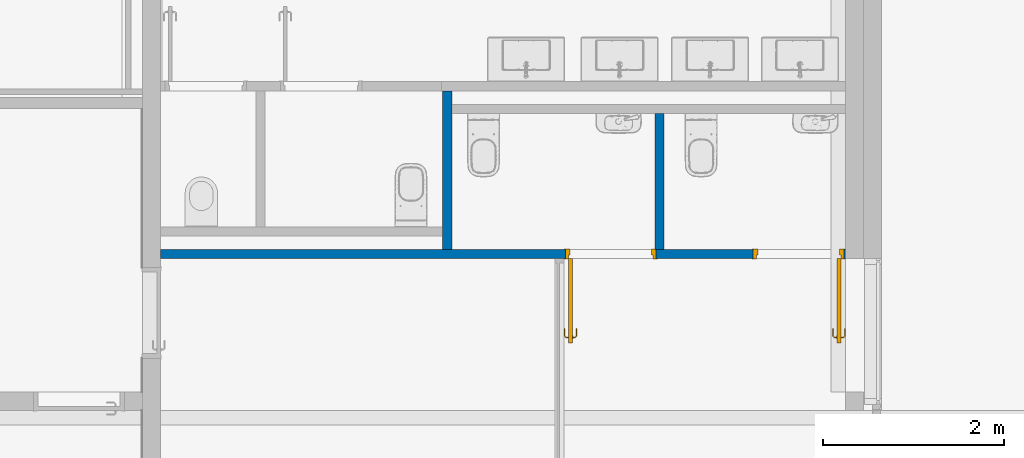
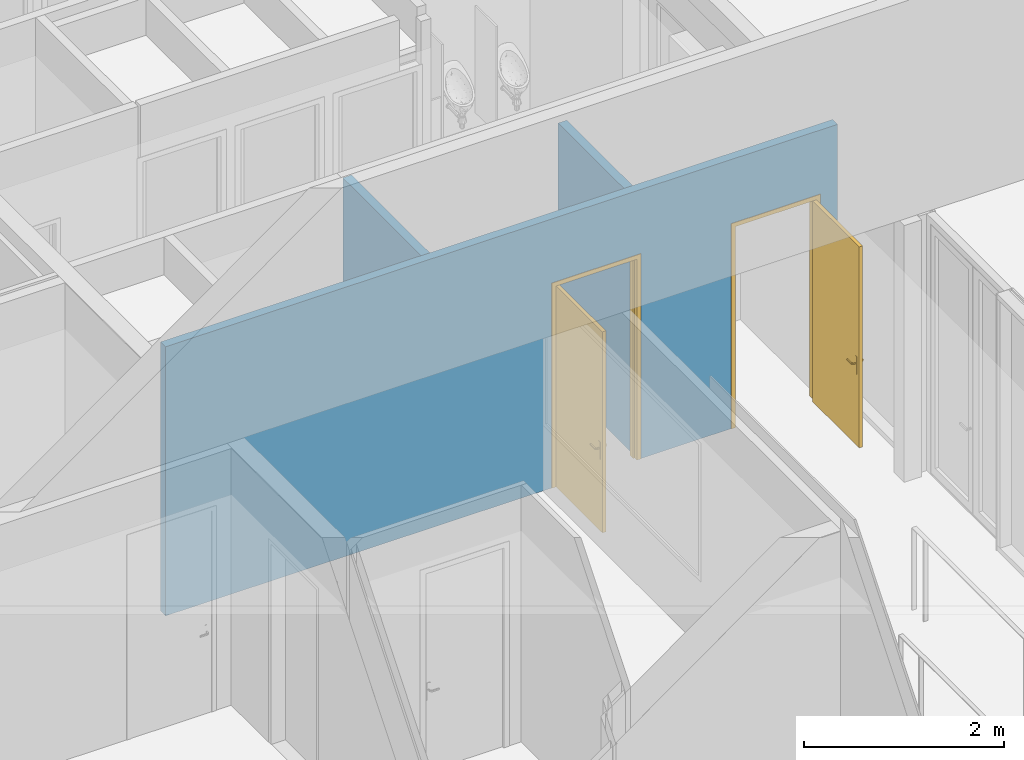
# One storey, part 94 of 240: 3 walls, 2 doors, 3 openings.
"""IFC2X3 building model written with IfcOpenShell, lengths in centimetres."""

import ifcopenshell
import ifcopenshell.guid

model = None  # the IFC model being written
_history = None  # IfcOwnerHistory: only IFC2X3 demands one
_inside = {}  # id of a spatial element -> (the spatial element, [elements in it])
_under = {}  # id of a project, library or spatial element -> (it, [spatial elements below it])
_declared = {}  # id of a project -> (the project, [libraries it declares])
_typed = {}  # id of a type object -> (the type object, [elements of that type])
_made_of = {}  # id of a material, layer set ... -> (it, [elements and type objects made of it])


def new_model(schema):
    """Start an empty IFC model of exactly this schema.

    Asked for "IFC4X3", IfcOpenShell would pick the latest addendum, in which some entities
    have other attributes; the version numbers below select the first issue.
    IFC2X3 requires an IfcOwnerHistory on every rooted entity: one is made here for all.
    """
    global model, _history
    if schema == "IFC4X3":
        model = ifcopenshell.file(schema_version=(4, 3, 0, 0))
    else:
        model = ifcopenshell.file(schema=schema)
    _inside.clear()
    _under.clear()
    _declared.clear()
    _typed.clear()
    _made_of.clear()
    _history = None
    if model.schema == "IFC2X3":
        org = make("IfcOrganization", Name="unknown")
        user = make(
            "IfcPersonAndOrganization",
            ThePerson=make("IfcPerson", FamilyName="unknown"),
            TheOrganization=org,
        )
        app = make(
            "IfcApplication",
            ApplicationDeveloper=org,
            Version="unknown",
            ApplicationFullName="unknown",
            ApplicationIdentifier="unknown",
        )
        _history = make(
            "IfcOwnerHistory",
            OwningUser=user,
            OwningApplication=app,
            ChangeAction="ADDED",
            CreationDate=0,
        )
    return model


def make(cls, **values):
    """One entity of the class cls with the attributes given. An attribute that is None is left unset."""
    return model.create_entity(
        cls, **{name: value for name, value in values.items() if value is not None}
    )


def entity(cls, *values):
    """Any entity or typed value of the class cls, its attributes in the order of the schema. None: left unset."""
    e = model.create_entity(cls)
    for i, value in enumerate(values):
        if value is not None:
            e[i] = value
    return e


def rooted(cls, **values):
    """An entity with a GlobalId (a new one), such as an element, a storey or a relation."""
    return make(cls, GlobalId=ifcopenshell.guid.new(), OwnerHistory=_history, **values)


def si_unit(unit_type, name, prefix=None):
    """IfcSIUnit, for example si_unit("LENGTHUNIT", "METRE", prefix="MILLI")."""
    return make("IfcSIUnit", UnitType=unit_type, Prefix=prefix, Name=name)


def converted_unit(unit_type, name, factor, base, dimensions=None, offset=None):
    """IfcConversionBasedUnit, such as the inch: factor (a typed value) times the base unit."""
    return make(
        "IfcConversionBasedUnit"
        if offset is None
        else "IfcConversionBasedUnitWithOffset",
        ConversionOffset=offset,
        Dimensions=None
        if dimensions is None
        else entity("IfcDimensionalExponents", *dimensions),
        UnitType=unit_type,
        Name=name,
        ConversionFactor=make(
            "IfcMeasureWithUnit", ValueComponent=factor, UnitComponent=base
        ),
    )


def derived_unit(unit_type, elements):
    """IfcDerivedUnit: a product of units, each with its exponent."""
    return make(
        "IfcDerivedUnit",
        Elements=[
            make("IfcDerivedUnitElement", Unit=unit, Exponent=power)
            for unit, power in elements
        ],
        UnitType=unit_type,
    )


def assignment(units):
    """IfcUnitAssignment: the units of a project."""
    return None if units is None else make("IfcUnitAssignment", Units=units)


def point(xyz):
    """IfcCartesianPoint."""
    return None if xyz is None else make("IfcCartesianPoint", Coordinates=xyz)


def direction(xyz):
    """IfcDirection."""
    return None if xyz is None else make("IfcDirection", DirectionRatios=xyz)


def frame(location, z_axis=None, x_axis=None):
    """IfcAxis2Placement3D, a coordinate frame: its origin and axes. An axis left out is left unset."""
    return make(
        "IfcAxis2Placement3D",
        Location=point(location),
        Axis=direction(z_axis),
        RefDirection=direction(x_axis),
    )


def frame_2d(location, x_axis=None):
    """IfcAxis2Placement2D, a coordinate frame in the plane: its origin and x axis."""
    return make(
        "IfcAxis2Placement2D", Location=point(location), RefDirection=direction(x_axis)
    )


def origin():
    """The frame at (0, 0, 0) with its axes left unset."""
    return frame((0.0, 0.0, 0.0))


def place(relative_to, where):
    """IfcLocalPlacement: puts the frame where relative to a parent placement (None: the world)."""
    return make(
        "IfcLocalPlacement", PlacementRelTo=relative_to, RelativePlacement=where
    )


def context(
    kind, dimensions, precision=None, world=None, true_north=None, identifier=None
):
    """IfcGeometricRepresentationContext, for example the 3D "Model" context."""
    return make(
        "IfcGeometricRepresentationContext",
        ContextIdentifier=identifier,
        ContextType=kind,
        CoordinateSpaceDimension=dimensions,
        Precision=precision,
        WorldCoordinateSystem=world,
        TrueNorth=true_north,
    )


def subcontext(parent, identifier, kind, view, scale=None):
    """IfcGeometricRepresentationSubContext, for example "Body" below "Model"."""
    return make(
        "IfcGeometricRepresentationSubContext",
        ContextIdentifier=identifier,
        ContextType=kind,
        ParentContext=parent,
        TargetScale=scale,
        TargetView=view,
    )


def project(units=None, contexts=None):
    """IfcProject with its units and contexts."""
    return rooted(
        "IfcProject",
        Name="project",
        RepresentationContexts=contexts,
        UnitsInContext=assignment(units),
    )


def spatial(cls, under=None, at=None, **own):
    """A site, building, storey or space (cls), placed at a placement, below another one or the project."""
    s = rooted(cls, ObjectPlacement=at, **own)
    if under is not None:
        _under.setdefault(under.id(), (under, []))[1].append(s)
    return s


def polyline(points):
    """IfcPolyline through the points."""
    return make("IfcPolyline", Points=[point(p) for p in points])


def profile(cls, at=None, kind="AREA", **sizes):
    """A parametric profile (cls). Its sizes go by their IFC names, for example OverallWidth=200.0."""
    return make(cls, ProfileType=kind, Position=at, **sizes)


def rectangle(**sizes):
    """IfcRectangleProfileDef."""
    return profile("IfcRectangleProfileDef", **sizes)


def extrude(swept, where, along, depth):
    """IfcExtrudedAreaSolid: the profile swept, set in the frame where, extruded along a direction by depth."""
    return make(
        "IfcExtrudedAreaSolid",
        SweptArea=swept,
        Position=where,
        ExtrudedDirection=direction(along),
        Depth=depth,
    )


def clip(a, b, op="DIFFERENCE"):
    """IfcBooleanClippingResult: the solid a cut by the half space b."""
    return make(
        "IfcBooleanClippingResult", Operator=op, FirstOperand=a, SecondOperand=b
    )


def bounded_halfspace(plane, agree, where, boundary):
    """IfcPolygonalBoundedHalfSpace: a half space limited to a polygon's prism."""
    return make(
        "IfcPolygonalBoundedHalfSpace",
        BaseSurface=make("IfcPlane", Position=plane),
        AgreementFlag=agree,
        Position=where,
        PolygonalBoundary=boundary,
    )


def faces_of(points, faces, orient=None, outer=None):
    """IfcFace entities. A face is a list of loops; a loop is a list of indices into points, from 0.

    orient and outer hold one flag for each loop. By default every Orientation is true, the
    first loop of a face is its IfcFaceOuterBound and the others are IfcFaceBound.
    """
    made = []
    for i, loops in enumerate(faces):
        bounds = []
        for j, loop in enumerate(loops):
            is_outer = j == 0 if outer is None else outer[i][j]
            bounds.append(
                make(
                    "IfcFaceOuterBound" if is_outer else "IfcFaceBound",
                    Bound=make("IfcPolyLoop", Polygon=[points[k] for k in loop]),
                    Orientation=True if orient is None else orient[i][j],
                )
            )
        made.append(make("IfcFace", Bounds=bounds))
    return made


def faceted_brep(points, faces, orient=None, outer=None, voids=None):
    """IfcFacetedBrep: a solid bounded by flat faces; with voids (closed shells), ...WithVoids."""
    shared = [point(p) for p in points]
    hull = make("IfcClosedShell", CfsFaces=faces_of(shared, faces, orient, outer))
    if voids is None:
        return make("IfcFacetedBrep", Outer=hull)
    return make(
        "IfcFacetedBrepWithVoids",
        Outer=hull,
        Voids=[
            make(cls, CfsFaces=faces_of(shared, fs, o, b)) for cls, fs, o, b in voids
        ],
    )


def shape(context_of_items, identifier, shape_type, items):
    """IfcShapeRepresentation: the items that make up one representation, for example the "Body"."""
    return make(
        "IfcShapeRepresentation",
        ContextOfItems=context_of_items,
        RepresentationIdentifier=identifier,
        RepresentationType=shape_type,
        Items=items,
    )


def source(mapping_origin, context_of_items, identifier, shape_type, items):
    """IfcRepresentationMap: a shape defined once, which mapped items show again and again."""
    return make(
        "IfcRepresentationMap",
        MappingOrigin=mapping_origin,
        MappedRepresentation=shape(context_of_items, identifier, shape_type, items),
    )


def transform(
    local_origin,
    x_axis=None,
    y_axis=None,
    z_axis=None,
    scale=None,
    scale2=None,
    scale3=None,
    uniform=True,
):
    """IfcCartesianTransformationOperator3D, or its non-uniform kind. x_axis, y_axis, z_axis: its Axis1, 2, 3."""
    if uniform:
        return make(
            "IfcCartesianTransformationOperator3D",
            Axis1=direction(x_axis),
            Axis2=direction(y_axis),
            LocalOrigin=point(local_origin),
            Scale=scale,
            Axis3=direction(z_axis),
        )
    return make(
        "IfcCartesianTransformationOperator3DnonUniform",
        Axis1=direction(x_axis),
        Axis2=direction(y_axis),
        LocalOrigin=point(local_origin),
        Scale=scale,
        Axis3=direction(z_axis),
        Scale2=scale2,
        Scale3=scale3,
    )


def mapped(mapping_source, mapping_target):
    """IfcMappedItem: shows the shape of a source again, moved by a transform."""
    return make(
        "IfcMappedItem", MappingSource=mapping_source, MappingTarget=mapping_target
    )


def material(Name=None, Category=None):
    """IfcMaterial."""
    return make("IfcMaterial", Name=Name, Category=Category)


def material_list(materials):
    """IfcMaterialList."""
    return make("IfcMaterialList", Materials=materials)


def layer(
    of_material, thickness, ventilated=None, Name=None, Category=None, Priority=None
):
    """IfcMaterialLayer: one layer of a wall or slab, of a material (None: an air gap)."""
    return make(
        "IfcMaterialLayer",
        Material=of_material,
        LayerThickness=thickness,
        IsVentilated=ventilated,
        Name=Name,
        Category=Category,
        Priority=Priority,
    )


def layer_set(layers, Name=None):
    """IfcMaterialLayerSet."""
    return make("IfcMaterialLayerSet", MaterialLayers=layers, LayerSetName=Name)


def layer_usage(for_layer_set, set_direction, sense, offset, extent=None):
    """IfcMaterialLayerSetUsage: how a layer set lies in its element."""
    return make(
        "IfcMaterialLayerSetUsage",
        ForLayerSet=for_layer_set,
        LayerSetDirection=set_direction,
        DirectionSense=sense,
        OffsetFromReferenceLine=offset,
        ReferenceExtent=extent,
    )


def made_of(thing, what):
    """Note that an element or type object is made of a material, layer set ...; save() writes the relation."""
    if what is not None:
        _made_of.setdefault(what.id(), (what, []))[1].append(thing)
    return thing


def type_object(cls, material=None, **own):
    """A type object (cls), such as IfcWallType, which elements share."""
    return made_of(rooted(cls, **own), material)


def type_shapes(of_type, sources):
    """Give a type object the sources (RepresentationMaps) that its elements show as mapped items."""
    of_type.RepresentationMaps = sources


def element(
    cls,
    number,
    at=None,
    inside=None,
    cuts=None,
    type_object=None,
    material=None,
    context=None,
    identifier="Body",
    shape_type=None,
    held_by="IfcProductDefinitionShape",
    body=None,
    shapes=None,
    **own,
):
    """One element of the class cls, such as IfcWall. Its Tag is "e" and its number.

    at: its placement. inside: the storey or other place that contains it. cuts: it is an
    opening in that element (IfcRelVoidsElement). A single representation is given by context,
    identifier, shape_type and body (its items); several are given by shapes. held_by: the class
    of the entity that holds the representations. save() writes the other relations.
    """
    e = rooted(cls, Tag="e%d" % number, ObjectPlacement=at, **own)
    if body is not None:
        shapes = [shape(context, identifier, shape_type, body)]
    if shapes is not None:
        e.Representation = make(held_by, Representations=shapes)
    if inside is not None:
        _inside.setdefault(inside.id(), (inside, []))[1].append(e)
    if cuts is not None:
        rooted(
            "IfcRelVoidsElement", RelatingBuildingElement=cuts, RelatedOpeningElement=e
        )
    if type_object is not None:
        _typed.setdefault(type_object.id(), (type_object, []))[1].append(e)
    return made_of(e, material)


def fill(opening, filler):
    """IfcRelFillsElement: the door or window that sits in an opening."""
    return rooted(
        "IfcRelFillsElement",
        RelatingOpeningElement=opening,
        RelatedBuildingElement=filler,
    )


def aggregate(whole, parts):
    """IfcRelAggregates: a whole, such as a stair, and the parts it consists of."""
    return rooted("IfcRelAggregates", RelatingObject=whole, RelatedObjects=parts)


def save(model, path):
    """Write the relations noted so far, then the file.

    IfcRelAggregates (storeys below a building ...), IfcRelContainedInSpatialStructure (elements
    in a storey), IfcRelDefinesByType, IfcRelAssociatesMaterial and IfcRelDeclares: one each for
    every whole, place, type object, material and project.
    """
    for whole, parts in _under.values():
        aggregate(whole, parts)
    for where, things in _inside.values():
        rooted(
            "IfcRelContainedInSpatialStructure",
            RelatedElements=things,
            RelatingStructure=where,
        )
    for kind, things in _typed.values():
        rooted("IfcRelDefinesByType", RelatedObjects=things, RelatingType=kind)
    for what, things in _made_of.values():
        rooted("IfcRelAssociatesMaterial", RelatedObjects=things, RelatingMaterial=what)
    for by, libraries in _declared.values():
        rooted("IfcRelDeclares", RelatingContext=by, RelatedDefinitions=libraries)
    model.write(path)


model = new_model("IFC2X3")

# Units and contexts
model_context = context("Model", 3, precision=0.001, world=origin(), true_north=direction((6.12303176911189e-17, 1.0)))
body_context = subcontext(model_context, "Body", "Model", "MODEL_VIEW")
ifc_project = project(units=[si_unit("LENGTHUNIT", "METRE", prefix="CENTI"), si_unit("AREAUNIT", "SQUARE_METRE"), si_unit("VOLUMEUNIT", "CUBIC_METRE"), converted_unit("PLANEANGLEUNIT", "DEGREE", entity("IfcRatioMeasure", 0.0174532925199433), si_unit("PLANEANGLEUNIT", "RADIAN"), dimensions=[0, 0, 0, 0, 0, 0, 0]), si_unit("MASSUNIT", "GRAM", prefix="KILO"), derived_unit("MASSDENSITYUNIT", [(si_unit("MASSUNIT", "GRAM", prefix="KILO"), 1), (si_unit("LENGTHUNIT", "METRE"), -3)]), si_unit("TIMEUNIT", "SECOND"), si_unit("FREQUENCYUNIT", "HERTZ"), si_unit("THERMODYNAMICTEMPERATUREUNIT", "DEGREE_CELSIUS"), derived_unit("THERMALTRANSMITTANCEUNIT", [(si_unit("MASSUNIT", "GRAM", prefix="KILO"), 1), (si_unit("THERMODYNAMICTEMPERATUREUNIT", "KELVIN"), -1), (si_unit("TIMEUNIT", "SECOND"), -3)]), derived_unit("VOLUMETRICFLOWRATEUNIT", [(si_unit("LENGTHUNIT", "METRE"), 3), (si_unit("TIMEUNIT", "SECOND"), -1)]), si_unit("ELECTRICCURRENTUNIT", "AMPERE"), si_unit("ELECTRICVOLTAGEUNIT", "VOLT"), si_unit("POWERUNIT", "WATT"), si_unit("FORCEUNIT", "NEWTON", prefix="KILO"), si_unit("ILLUMINANCEUNIT", "LUX"), si_unit("LUMINOUSFLUXUNIT", "LUMEN"), si_unit("LUMINOUSINTENSITYUNIT", "CANDELA"), derived_unit("USERDEFINED", [(si_unit("MASSUNIT", "GRAM", prefix="KILO"), -1), (si_unit("LENGTHUNIT", "METRE"), -2), (si_unit("TIMEUNIT", "SECOND"), 3), (si_unit("LUMINOUSFLUXUNIT", "LUMEN"), 1)]), derived_unit("LINEARVELOCITYUNIT", [(si_unit("LENGTHUNIT", "METRE"), 1), (si_unit("TIMEUNIT", "SECOND"), -1)]), si_unit("PRESSUREUNIT", "PASCAL"), derived_unit("USERDEFINED", [(si_unit("LENGTHUNIT", "METRE"), -2), (si_unit("MASSUNIT", "GRAM", prefix="KILO"), 1), (si_unit("TIMEUNIT", "SECOND"), -2)])], contexts=[model_context])

# Site, building, storey
site_placement = place(None, frame((-2781.94577612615, 7442.24238424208, 0.0)))
site = spatial("IfcSite", under=ifc_project, at=site_placement, Name="Default", CompositionType="ELEMENT")
building_placement = place(site_placement, origin())
building = spatial("IfcBuilding", under=site, at=building_placement, CompositionType="ELEMENT")
storey_placement = place(building_placement, origin())
storey = spatial("IfcBuildingStorey", under=building, at=storey_placement, Name="N00 - COO", CompositionType="ELEMENT", Elevation=0.0)

# Wall, openings, doors
ifc_material_1 = material(Name="01 - Enduit/Plâtre")
ifc_layer_1 = layer(ifc_material_1, 1.3)
ifc_material_2 = material(Name="Terre cuite")
ifc_layer_2 = layer(ifc_material_2, 7.4)
ifc_layer_3 = layer(ifc_material_1, 1.3)
ifc_layer_set = layer_set([ifc_layer_1, ifc_layer_2, ifc_layer_3], Name="Mur de base:06 - cloisons - Carreau de terre cuite (10cm)")
ifc_layer_usage_1 = layer_usage(ifc_layer_set, "AXIS2", "NEGATIVE", 5.0)
wall_type = type_object("IfcWallType", Name="Mur de base:06 - cloisons - Carreau de terre cuite (10cm)", PredefinedType="STANDARD", material=ifc_layer_set)
wall_1_placement = place(building_placement, frame((-9677.0, -3200.07903364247, 0.0)))
wall_1 = element("IfcWallStandardCase", 1, at=wall_1_placement, inside=storey, type_object=wall_type, material=ifc_layer_usage_1, Name="Mur de base:06 - cloisons - Carreau de terre cuite (10cm)", ObjectType="Mur de base:06 - cloisons - Carreau de terre cuite (10cm)", context=body_context, shape_type="SweptSolid", body=[
    extrude(rectangle(XDim=775.067816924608, YDim=10.0000000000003, at=frame_2d((387.533908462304, -7.99360577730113e-14), x_axis=(-1.0, 0.0))), origin(), (0.0, 0.0, 1.0), 328.0),
])
opening_1_placement = place(wall_1_placement, origin())
element("IfcOpeningElement", 2, at=opening_1_placement, cuts=wall_1, Name="Mur de base:06 - cloisons - Carreau de terre cuite (10cm)", ObjectType="Opening", context=body_context, shape_type="SweptSolid", body=[
    extrude(rectangle(XDim=170.0, YDim=9.99999999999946, at=frame_2d((8.66418048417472e-13, 0.0), x_axis=(0.0, 1.0))), frame((440.067816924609, -320.692772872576, 165.0), z_axis=(0.0, 1.0, 0.0), x_axis=(-1.0, 0.0, 0.0)), (0.0, 0.0, 1.0), 315.692772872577),
])
opening_2_placement = place(wall_1_placement, frame((546.567819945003, 5.0, 0.0)))
opening_2 = element("IfcOpeningElement", 3, at=opening_2_placement, cuts=wall_1, Name="Int. Simple:PP simple (0.93m x 2.50m):1", ObjectType="Opening", context=body_context, shape_type="SweptSolid", body=[
    extrude(rectangle(XDim=248.500000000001, YDim=99.9999999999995, at=frame_2d((124.250000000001, 49.9999999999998), x_axis=(1.0, 0.0))), frame((0.0, 0.0, 0.0), z_axis=(0.0, -1.0, 0.0), x_axis=(0.0, 0.0, 1.0)), (0.0, 0.0, 1.0), 10.0),
])
opening_3_placement = place(wall_1_placement, frame((753.567819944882, 5.0, 0.0)))
opening_3 = element("IfcOpeningElement", 4, at=opening_3_placement, cuts=wall_1, Name="Int. Simple:PP simple (0.93m x 2.50m):1", ObjectType="Opening", context=body_context, shape_type="SweptSolid", body=[
    extrude(rectangle(XDim=248.500000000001, YDim=99.9999999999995, at=frame_2d((124.250000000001, 50.0), x_axis=(1.0, 0.0))), frame((0.0, 0.0, 0.0), z_axis=(0.0, -1.0, 0.0), x_axis=(0.0, 0.0, 1.0)), (0.0, 0.0, 1.0), 10.0),
])
ifc_material_3 = material(Name="Finition Peinture - Blanc satiné")
ifc_material_4 = material(Name="Bois - Panneau de porte")
ifc_material_5 = material(Name="Bois - Cadre de porte")
ifc_material_list_1 = material_list([ifc_material_3, ifc_material_4, ifc_material_5])
ifc_material_list_2 = material_list([ifc_material_3, ifc_material_4, ifc_material_5])
door_style_1 = type_object("IfcDoorStyle", Name="PP simple (0.93m x 2.50m)", ConstructionType="NOTDEFINED", OperationType="SINGLE_SWING_LEFT", ParameterTakesPrecedence=False, Sizeable=False, material=ifc_material_list_2)
shared_shape_1 = source(origin(), body_context, "Body", "Brep", [
    faceted_brep([(97.0, -85.9647238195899, 86.6003983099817), (97.0, -85.0, 87.0), (97.0, -85.0, 108.0), (97.0, -85.96472381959, 108.399601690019), (97.0, -87.0, 108.535898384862), (97.0, -88.0352761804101, 108.399601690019), (97.0, -89.0, 108.0), (97.0, -89.0, 87.0), (97.0, -88.03527618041, 86.6003983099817), (97.0, -87.0, 86.464101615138), (96.5000000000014, -85.96472381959, 108.399601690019), (96.5000000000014, -85.0, 108.0), (96.5000000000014, -85.0, 87.0), (96.5000000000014, -85.9647238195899, 86.6003983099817), (96.5000000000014, -87.0, 86.464101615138), (96.5000000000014, -88.03527618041, 86.6003983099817), (96.5000000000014, -89.0, 87.0), (96.5000000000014, -89.0, 108.0), (96.5000000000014, -88.0352761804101, 108.399601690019), (96.5000000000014, -87.0, 108.535898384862)], [[[0, 1, 2, 3, 4, 5, 6, 7, 8, 9]], [[10, 11, 12, 13, 14, 15, 16, 17, 18, 19]], [[16, 15, 8, 7]], [[8, 15, 14, 9]], [[14, 13, 0, 9]], [[13, 12, 1, 0]], [[2, 1, 12, 11]], [[11, 10, 3, 2]], [[3, 10, 19, 4]], [[19, 18, 5, 4]], [[18, 17, 6, 5]], [[7, 6, 17, 16]]]),
    faceted_brep([(92.5000000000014, -85.9647238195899, 86.6003983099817), (92.5000000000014, -85.0, 87.0), (92.5000000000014, -85.0, 108.0), (92.5000000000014, -85.96472381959, 108.399601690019), (92.5000000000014, -87.0, 108.535898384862), (92.5000000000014, -88.0352761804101, 108.399601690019), (92.5000000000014, -89.0, 108.0), (92.5000000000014, -89.0, 87.0), (92.5000000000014, -88.03527618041, 86.6003983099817), (92.5000000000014, -87.0, 86.464101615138), (92.0, -85.96472381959, 108.399601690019), (92.0, -85.0, 108.0), (92.0, -85.0, 87.0), (92.0, -85.9647238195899, 86.6003983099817), (92.0, -87.0, 86.464101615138), (92.0, -88.03527618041, 86.6003983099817), (92.0, -89.0, 87.0), (92.0, -89.0, 108.0), (92.0, -88.0352761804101, 108.399601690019), (92.0, -87.0, 108.535898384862)], [[[0, 1, 2, 3, 4, 5, 6, 7, 8, 9]], [[10, 11, 12, 13, 14, 15, 16, 17, 18, 19]], [[11, 10, 3, 2]], [[3, 10, 19, 4]], [[19, 18, 5, 4]], [[18, 17, 6, 5]], [[7, 6, 17, 16]], [[16, 15, 8, 7]], [[8, 15, 14, 9]], [[14, 13, 0, 9]], [[13, 12, 1, 0]], [[2, 1, 12, 11]]]),
    faceted_brep([(97.0, -87.2025298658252, 100.778044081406), (97.0, -86.7974701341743, 100.778044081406), (97.0, -86.3999999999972, 100.699999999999), (97.0, -86.3999999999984, 99.3000000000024), (97.0, -86.7974701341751, 99.2219559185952), (97.0, -87.202529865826, 99.221955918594), (97.0, -87.6000000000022, 99.2999999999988), (97.0, -87.6000000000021, 100.7), (99.7650950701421, -87.6000000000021, 100.7), (99.6004575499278, -87.2025298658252, 100.778044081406), (101.205345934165, -85.5976414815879, 100.778044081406), (100.800286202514, -85.4298602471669, 100.778044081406), (99.4326763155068, -86.7974701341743, 100.778044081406), (99.2680387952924, -86.3999999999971, 100.7), (99.2680387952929, -86.3999999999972, 99.3000000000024), (99.4326763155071, -86.7974701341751, 99.2219559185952), (100.800286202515, -85.4298602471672, 99.2219559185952), (101.205345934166, -85.5976414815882, 99.221955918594), (99.6004575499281, -87.202529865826, 99.221955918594), (99.7650950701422, -87.6000000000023, 99.2999999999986), (101.602816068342, -85.7622790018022, 100.7), (100.402816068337, -85.2652227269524, 100.7), (100.402816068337, -85.2652227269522, 99.3000000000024), (101.602816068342, -85.7622790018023, 99.2999999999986), (101.602816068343, -76.9981359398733, 99.2999999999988), (101.205345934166, -76.9981359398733, 99.221955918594), (100.800286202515, -76.9981359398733, 99.2219559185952), (100.402816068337, -76.9981359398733, 99.3000000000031), (100.402816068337, -76.9981359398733, 100.7), (100.800286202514, -76.9981359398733, 100.778044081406), (101.205345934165, -76.9981359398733, 100.778044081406), (101.602816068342, -76.9981359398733, 100.699999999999), (101.602816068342, -81.7692302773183, 100.7), (101.00281606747, -81.2139980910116, 100.78786867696), (100.402816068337, -81.1316793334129, 100.7), (100.402816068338, -81.1316793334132, 99.3000000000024), (101.002816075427, -81.2139981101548, 99.2121313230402), (101.602816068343, -81.7692299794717, 99.2999999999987)], [[[0, 1, 2, 3, 4, 5, 6, 7]], [[8, 9, 0, 7]], [[9, 10, 11, 12, 1, 0]], [[12, 13, 2, 1]], [[3, 2, 13, 14]], [[14, 15, 4, 3]], [[15, 16, 17, 18, 5, 4]], [[18, 19, 6, 5]], [[7, 6, 19, 8]], [[20, 10, 9, 8]], [[11, 21, 13, 12]], [[14, 13, 21, 22]], [[22, 16, 15, 14]], [[17, 23, 19, 18]], [[8, 19, 23, 20]], [[24, 25, 26, 27, 28, 29, 30, 31]], [[32, 30, 33]], [[31, 30, 32]], [[10, 20, 32]], [[33, 34, 11]], [[21, 11, 34]], [[34, 29, 28]], [[30, 29, 33]], [[29, 34, 33]], [[10, 32, 33]], [[10, 33, 11]], [[22, 21, 34, 28, 27, 35]], [[35, 26, 36]], [[37, 36, 25]], [[22, 35, 16]], [[35, 27, 26]], [[24, 37, 25]], [[23, 17, 37]], [[37, 17, 36]], [[17, 16, 36]], [[16, 35, 36]], [[25, 36, 26]], [[20, 23, 37, 24, 31, 32]]]),
    faceted_brep([(92.0, -87.2025298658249, 100.778044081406), (92.0, -87.6000000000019, 100.7), (92.0, -87.6000000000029, 99.2999999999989), (92.0, -87.2025298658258, 99.221955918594), (92.0, -86.7974701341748, 99.2219559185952), (92.0, -86.399999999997, 99.3000000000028), (92.0, -86.3999999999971, 100.7), (92.0, -86.797470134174, 100.778044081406), (89.7514795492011, -86.399999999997, 99.3000000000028), (89.751479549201, -86.399999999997, 100.7), (89.5868420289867, -86.7974701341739, 100.778044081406), (88.2054812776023, -85.4161093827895, 100.778044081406), (87.8004215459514, -85.5838906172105, 100.778044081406), (89.4190607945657, -87.2025298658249, 100.778044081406), (89.2544232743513, -87.6000000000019, 100.7), (89.2544232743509, -87.6000000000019, 99.2999999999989), (89.4190607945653, -87.2025298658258, 99.221955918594), (87.8004215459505, -85.5838906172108, 99.221955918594), (88.2054812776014, -85.4161093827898, 99.2219559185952), (89.5868420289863, -86.7974701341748, 99.2219559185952), (88.6029514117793, -85.2514718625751, 99.3000000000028), (88.6029514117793, -85.2514718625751, 100.7), (87.4029514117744, -85.7485281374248, 100.7), (87.4029514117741, -85.7485281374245, 99.2999999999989), (88.6029514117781, -76.9954216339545, 99.3000000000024), (88.2054812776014, -76.9954216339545, 99.2219559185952), (87.8004215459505, -76.9954216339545, 99.221955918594), (87.4029514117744, -76.9954216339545, 99.2999999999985), (87.4029514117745, -76.9954216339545, 100.7), (87.8004215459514, -76.9954216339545, 100.778044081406), (88.2054812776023, -76.9954216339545, 100.778044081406), (88.6029514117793, -76.9954216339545, 100.7), (88.6029514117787, -81.1234479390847, 99.3000000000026), (88.6029514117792, -81.1234467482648, 100.7), (88.0029514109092, -81.2057655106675, 100.78786867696), (87.4029514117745, -81.755479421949, 100.7), (87.4029514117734, -81.75547956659, 99.2999999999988), (88.0029514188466, -81.2057654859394, 99.2121313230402)], [[[0, 1, 2, 3, 4, 5, 6, 7]], [[6, 5, 8, 9]], [[9, 10, 7, 6]], [[10, 11, 12, 13, 0, 7]], [[13, 14, 1, 0]], [[2, 1, 14, 15]], [[15, 16, 3, 2]], [[16, 17, 18, 19, 4, 3]], [[19, 8, 5, 4]], [[9, 8, 20, 21]], [[21, 11, 10, 9]], [[12, 22, 14, 13]], [[15, 14, 22, 23]], [[23, 17, 16, 15]], [[18, 20, 8, 19]], [[24, 25, 26, 27, 28, 29, 30, 31]], [[21, 20, 32, 24, 31, 33]], [[33, 30, 34]], [[35, 34, 29]], [[21, 33, 11]], [[33, 31, 30]], [[28, 35, 29]], [[22, 12, 35]], [[35, 12, 34]], [[12, 11, 34]], [[11, 33, 34]], [[29, 34, 30]], [[22, 35, 28, 27, 36, 23]], [[36, 26, 37]], [[27, 26, 36]], [[17, 23, 36]], [[37, 32, 18]], [[20, 18, 32]], [[32, 25, 24]], [[26, 25, 37]], [[25, 32, 37]], [[17, 36, 37]], [[17, 37, 18]]]),
    faceted_brep([(92.5000000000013, -93.0, 245.0), (92.5000000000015, 0.0, 245.0), (92.5000000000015, 0.0, 0.0), (92.5000000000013, -93.0, 0.0), (96.5000000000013, -93.0, 245.0), (96.5000000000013, -93.0, 0.0), (96.5000000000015, 0.0, 0.0), (96.5000000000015, 0.0, 245.0)], [[[0, 1, 2, 3]], [[4, 5, 6, 7]], [[1, 0, 4, 7]], [[2, 1, 7, 6]], [[3, 2, 6, 5]], [[0, 3, 5, 4]]]),
    faceted_brep([(0.0, 10.0, 0.0), (-1.50000000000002, 10.0, 0.0), (-1.50000000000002, 10.5000000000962, 0.0), (5.0, 10.5000000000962, 0.0), (5.0, 4.0, 0.0), (3.50000000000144, 4.0, 0.0), (3.50000000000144, -0.500000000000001, 0.0), (-1.50000000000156, -0.500000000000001, 0.0), (-1.50000000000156, 0.0, 0.0), (0.0, 0.0, 0.0), (0.0, 0.0, 248.500000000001), (0.0, 10.0, 248.500000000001), (100.0, 10.0, 248.500000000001), (100.0, 10.0, 0.0), (101.5, 10.0, 0.0), (101.5, 10.0, 250.0), (-1.50000000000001, 10.0, 250.0), (5.0, 10.5000000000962, 243.5), (5.0, 4.0, 243.5), (95.0, 4.0, 243.5), (95.0, 4.0, 0.0), (96.499999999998, 4.0, 0.0), (96.499999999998, 4.0, 245.0), (3.50000000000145, 4.0, 245.0), (100.0, 0.0, 248.500000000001), (100.0, 0.0, 0.0), (101.500000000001, 0.0, 0.0), (101.500000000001, -0.500000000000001, 0.0), (96.499999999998, -0.500000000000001, 0.0), (95.0, 10.5000000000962, 0.0), (101.5, 10.5000000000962, 0.0), (95.0, 10.5000000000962, 243.5), (3.50000000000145, -0.500000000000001, 245.0), (96.499999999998, -0.500000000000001, 245.0), (101.500000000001, -0.500000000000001, 250.0), (-1.50000000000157, -0.500000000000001, 250.0), (-1.50000000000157, 0.0, 250.0), (101.500000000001, 0.0, 250.0), (-1.50000000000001, 10.5000000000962, 250.0), (101.5, 10.5000000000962, 250.0)], [[[0, 1, 2, 3, 4, 5, 6, 7, 8, 9]], [[0, 9, 10, 11]], [[1, 0, 11, 12, 13, 14, 15, 16]], [[3, 17, 18, 4]], [[5, 4, 18, 19, 20, 21, 22, 23]], [[12, 24, 25, 13]], [[13, 25, 26, 27, 28, 21, 20, 29, 30, 14]], [[19, 31, 29, 20]], [[11, 10, 24, 12]], [[18, 17, 31, 19]], [[5, 23, 32, 6]], [[7, 6, 32, 33, 28, 27, 34, 35]], [[8, 7, 35, 36]], [[9, 8, 36, 37, 26, 25, 24, 10]], [[2, 1, 16, 38]], [[3, 2, 38, 39, 30, 29, 31, 17]], [[33, 22, 21, 28]], [[37, 34, 27, 26]], [[39, 15, 14, 30]], [[32, 23, 22, 33]], [[36, 35, 34, 37]], [[38, 16, 15, 39]]]),
])
type_shapes(door_style_1, [shared_shape_1])
door_1_placement = place(opening_3_placement, frame((-100.0, -10.0, 0.0)))
door_1 = element("IfcDoor", 5, at=door_1_placement, inside=storey, type_object=door_style_1, material=ifc_material_list_1, Name="Int. Simple:PP simple (0.93m x 2.50m)", ObjectType="Int. Simple:PP simple (0.93m x 2.50m)", OverallHeight=248.500000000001, OverallWidth=99.9999999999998, context=body_context, shape_type="MappedRepresentation", body=[
    mapped(shared_shape_1, transform((0.0, 0.0, 0.0), scale=1.0)),
])
fill(opening_3, door_1)
ifc_material_list_3 = material_list([ifc_material_3, ifc_material_4, ifc_material_5])
ifc_material_list_4 = material_list([ifc_material_3, ifc_material_4, ifc_material_5])
door_style_2 = type_object("IfcDoorStyle", Name="PP simple (0.93m x 2.50m)", ConstructionType="NOTDEFINED", OperationType="SINGLE_SWING_RIGHT", ParameterTakesPrecedence=False, Sizeable=False, material=ifc_material_list_4)
shared_shape_2 = source(origin(), body_context, "Body", "Brep", [
    faceted_brep([(10.0, -89.0, 87.0), (10.0, -89.0, 108.0), (10.0, -88.0352761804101, 108.399601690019), (10.0, -87.0, 108.535898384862), (10.0, -85.96472381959, 108.399601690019), (10.0, -85.0, 108.0), (10.0, -85.0, 87.0), (10.0, -85.9647238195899, 86.6003983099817), (10.0, -87.0, 86.464101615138), (10.0, -88.03527618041, 86.6003983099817), (10.500000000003, -89.0, 108.0), (10.500000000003, -89.0, 87.0), (10.500000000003, -88.03527618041, 86.6003983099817), (10.500000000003, -87.0, 86.464101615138), (10.500000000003, -85.9647238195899, 86.6003983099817), (10.500000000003, -85.0, 87.0), (10.500000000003, -85.0, 108.0), (10.500000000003, -85.96472381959, 108.399601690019), (10.500000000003, -87.0, 108.535898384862), (10.500000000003, -88.0352761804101, 108.399601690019)], [[[0, 1, 2, 3, 4, 5, 6, 7, 8, 9]], [[10, 11, 12, 13, 14, 15, 16, 17, 18, 19]], [[9, 12, 11, 0]], [[8, 13, 12, 9]], [[7, 14, 13, 8]], [[7, 6, 15, 14]], [[15, 6, 5, 16]], [[4, 17, 16, 5]], [[3, 18, 17, 4]], [[2, 19, 18, 3]], [[2, 1, 10, 19]], [[11, 10, 1, 0]]]),
    faceted_brep([(14.500000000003, -89.0, 87.0), (14.500000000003, -89.0, 108.0), (14.500000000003, -88.0352761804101, 108.399601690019), (14.500000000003, -87.0, 108.535898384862), (14.500000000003, -85.96472381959, 108.399601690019), (14.500000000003, -85.0, 108.0), (14.500000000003, -85.0, 87.0), (14.500000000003, -85.9647238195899, 86.6003983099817), (14.500000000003, -87.0, 86.464101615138), (14.500000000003, -88.03527618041, 86.6003983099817), (15.0, -87.0, 108.535898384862), (15.0, -88.0352761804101, 108.399601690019), (15.0, -89.0, 108.0), (15.0, -89.0, 87.0), (15.0, -88.03527618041, 86.6003983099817), (15.0, -87.0, 86.464101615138), (15.0, -85.9647238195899, 86.6003983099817), (15.0, -85.0, 87.0), (15.0, -85.0, 108.0), (15.0, -85.96472381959, 108.399601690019)], [[[0, 1, 2, 3, 4, 5, 6, 7, 8, 9]], [[10, 11, 12, 13, 14, 15, 16, 17, 18, 19]], [[4, 19, 18, 5]], [[3, 10, 19, 4]], [[2, 11, 10, 3]], [[2, 1, 12, 11]], [[13, 12, 1, 0]], [[9, 14, 13, 0]], [[8, 15, 14, 9]], [[7, 16, 15, 8]], [[7, 6, 17, 16]], [[17, 6, 5, 18]]]),
    faceted_brep([(10.0, -86.7974701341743, 100.778044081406), (10.0, -87.2025298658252, 100.778044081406), (10.0, -87.6000000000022, 100.699999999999), (10.0, -87.6000000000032, 99.2999999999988), (10.0, -87.202529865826, 99.221955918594), (10.0, -86.7974701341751, 99.2219559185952), (10.0, -86.3999999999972, 99.3000000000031), (10.0, -86.3999999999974, 100.7), (7.39954245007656, -87.2025298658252, 100.778044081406), (7.2349049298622, -87.6000000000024, 100.7), (7.56732368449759, -86.7974701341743, 100.778044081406), (6.19971379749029, -85.4298602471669, 100.778044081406), (5.79465406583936, -85.5976414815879, 100.778044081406), (7.73196120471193, -86.3999999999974, 100.7), (7.731961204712, -86.3999999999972, 99.3000000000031), (7.56732368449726, -86.7974701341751, 99.2219559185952), (7.39954245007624, -87.202529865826, 99.221955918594), (5.79465406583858, -85.5976414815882, 99.221955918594), (6.1997137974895, -85.4298602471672, 99.2219559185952), (7.2349049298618, -87.6000000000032, 99.2999999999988), (5.39718393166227, -85.7622790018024, 100.7), (6.59718393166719, -85.2652227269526, 100.7), (6.59718393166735, -85.2652227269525, 99.3000000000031), (5.39718393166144, -85.7622790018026, 99.2999999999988), (5.39718393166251, -76.9981359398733, 100.7), (5.79465406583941, -76.9981359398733, 100.778044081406), (6.19971379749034, -76.9981359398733, 100.778044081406), (6.59718393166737, -76.9981359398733, 100.699999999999), (6.59718393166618, -76.9981359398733, 99.3000000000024), (6.19971379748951, -76.9981359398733, 99.2219559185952), (5.7946540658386, -76.9981359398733, 99.221955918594), (5.39718393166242, -76.9981359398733, 99.2999999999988), (5.99718393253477, -81.2139980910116, 100.78786867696), (5.39718393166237, -81.7692302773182, 100.7), (6.59718393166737, -81.1316793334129, 100.7), (6.59718393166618, -81.1316793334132, 99.3000000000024), (5.99718392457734, -81.2139981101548, 99.2121313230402), (5.39718393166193, -81.7692310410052, 99.2999999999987)], [[[0, 1, 2, 3, 4, 5, 6, 7]], [[2, 1, 8, 9]], [[1, 0, 10, 11, 12, 8]], [[0, 7, 13, 10]], [[14, 13, 7, 6]], [[5, 15, 14, 6]], [[5, 4, 16, 17, 18, 15]], [[3, 19, 16, 4]], [[9, 19, 3, 2]], [[9, 8, 12, 20]], [[10, 13, 21, 11]], [[22, 21, 13, 14]], [[14, 15, 18, 22]], [[16, 19, 23, 17]], [[20, 23, 19, 9]], [[24, 25, 26, 27, 28, 29, 30, 31]], [[32, 25, 33]], [[33, 25, 24]], [[33, 20, 12]], [[11, 34, 32]], [[34, 11, 21]], [[27, 26, 34]], [[32, 26, 25]], [[32, 34, 26]], [[32, 33, 12]], [[11, 32, 12]], [[21, 22, 35, 28, 27, 34]], [[36, 29, 35]], [[30, 36, 37]], [[18, 35, 22]], [[29, 28, 35]], [[30, 37, 31]], [[37, 17, 23]], [[36, 17, 37]], [[36, 18, 17]], [[36, 35, 18]], [[29, 36, 30]], [[23, 20, 33, 24, 31, 37]]]),
    faceted_brep([(15.0, -86.7974701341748, 99.2219559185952), (15.0, -87.2025298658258, 99.221955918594), (15.0, -87.6000000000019, 99.2999999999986), (15.0, -87.6000000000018, 100.7), (15.0, -87.2025298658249, 100.778044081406), (15.0, -86.797470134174, 100.778044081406), (15.0, -86.3999999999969, 100.7), (15.0, -86.3999999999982, 99.3000000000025), (17.2485204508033, -86.399999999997, 100.7), (17.2485204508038, -86.399999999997, 99.3000000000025), (17.4131579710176, -86.7974701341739, 100.778044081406), (17.5809392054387, -87.2025298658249, 100.778044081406), (19.1995784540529, -85.5838906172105, 100.778044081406), (18.794518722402, -85.4161093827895, 100.778044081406), (17.745576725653, -87.6000000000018, 100.7), (17.7455767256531, -87.6000000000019, 99.2999999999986), (17.5809392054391, -87.2025298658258, 99.221955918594), (17.413157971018, -86.7974701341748, 99.2219559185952), (18.7945187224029, -85.4161093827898, 99.2219559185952), (19.1995784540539, -85.5838906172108, 99.221955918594), (18.397048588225, -85.2514718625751, 100.7), (18.3970485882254, -85.2514718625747, 99.3000000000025), (19.5970485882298, -85.7485281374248, 100.7), (19.59704858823, -85.7485281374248, 99.2999999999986), (18.7945187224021, -76.9954216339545, 100.778044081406), (19.199578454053, -76.9954216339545, 100.778044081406), (19.59704858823, -76.9954216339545, 100.7), (19.597048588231, -76.9954216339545, 99.2999999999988), (19.1995784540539, -76.9954216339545, 99.221955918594), (18.7945187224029, -76.9954216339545, 99.2219559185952), (18.397048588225, -76.9954216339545, 99.3000000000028), (18.3970485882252, -76.9954216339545, 100.7), (18.3970485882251, -81.1234467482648, 100.7), (18.3970485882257, -81.1234479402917, 99.3000000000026), (18.9970485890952, -81.2057655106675, 100.78786867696), (19.5970485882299, -81.7554794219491, 100.7), (19.597048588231, -81.75547956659, 99.2999999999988), (18.9970485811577, -81.2057654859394, 99.2121313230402)], [[[0, 1, 2, 3, 4, 5, 6, 7]], [[8, 9, 7, 6]], [[5, 10, 8, 6]], [[5, 4, 11, 12, 13, 10]], [[3, 14, 11, 4]], [[14, 3, 2, 15]], [[2, 1, 16, 15]], [[1, 0, 17, 18, 19, 16]], [[0, 7, 9, 17]], [[20, 21, 9, 8]], [[8, 10, 13, 20]], [[14, 22, 12, 11]], [[23, 22, 14, 15]], [[15, 16, 19, 23]], [[17, 9, 21, 18]], [[24, 25, 26, 27, 28, 29, 30, 31]], [[21, 20, 32, 31, 30, 33]], [[34, 24, 32]], [[25, 34, 35]], [[13, 32, 20]], [[24, 31, 32]], [[25, 35, 26]], [[35, 12, 22]], [[34, 12, 35]], [[34, 13, 12]], [[34, 32, 13]], [[24, 34, 25]], [[22, 23, 36, 27, 26, 35]], [[37, 28, 36]], [[36, 28, 27]], [[36, 23, 19]], [[18, 33, 37]], [[33, 18, 21]], [[30, 29, 33]], [[37, 29, 28]], [[37, 33, 29]], [[37, 36, 19]], [[18, 37, 19]]]),
    faceted_brep([(14.5000000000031, -93.0, 245.0), (14.5000000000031, -93.0, 0.0), (14.5000000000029, 0.0, 0.0), (14.5000000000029, 0.0, 245.0), (10.5000000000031, -93.0, 245.0), (10.5000000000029, 0.0, 245.0), (10.5000000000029, 0.0, 0.0), (10.5000000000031, -93.0, 0.0)], [[[0, 1, 2, 3]], [[4, 5, 6, 7]], [[3, 5, 4, 0]], [[2, 6, 5, 3]], [[1, 7, 6, 2]], [[0, 4, 7, 1]]]),
    faceted_brep([(107.0, 10.0, 0.0), (107.0, 0.0, 0.0), (108.500000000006, 0.0, 0.0), (108.500000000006, -0.500000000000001, 0.0), (103.500000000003, -0.500000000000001, 0.0), (103.500000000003, 4.0, 0.0), (102.0, 4.0, 0.0), (102.0, 10.5000000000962, 0.0), (108.500000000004, 10.5000000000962, 0.0), (108.500000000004, 10.0, 0.0), (107.0, 10.0, 248.500000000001), (107.0, 0.0, 248.500000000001), (108.500000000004, 10.0, 250.0), (5.50000000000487, 10.0, 250.0), (5.50000000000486, 10.0, 0.0), (7.0, 10.0, 0.0), (7.0, 10.0, 248.500000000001), (102.0, 4.0, 243.5), (102.0, 10.5000000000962, 243.5), (103.500000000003, 4.0, 245.0), (10.5000000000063, 4.0, 245.0), (10.5000000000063, 4.0, 0.0), (12.0, 4.0, 0.0), (12.0, 4.0, 243.5), (7.0, 0.0, 0.0), (7.0, 0.0, 248.500000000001), (5.50000000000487, 10.5000000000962, 0.0), (12.0, 10.5000000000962, 0.0), (10.5000000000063, -0.500000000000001, 0.0), (5.5000000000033, -0.500000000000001, 0.0), (5.5000000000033, 0.0, 0.0), (12.0, 10.5000000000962, 243.5), (103.500000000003, -0.500000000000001, 245.0), (108.500000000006, -0.500000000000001, 250.0), (5.5000000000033, -0.500000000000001, 250.0), (10.5000000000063, -0.500000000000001, 245.0), (108.500000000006, 0.0, 250.0), (5.50000000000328, 0.0, 250.0), (108.500000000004, 10.5000000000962, 250.0), (5.50000000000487, 10.5000000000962, 250.0)], [[[0, 1, 2, 3, 4, 5, 6, 7, 8, 9]], [[0, 10, 11, 1]], [[9, 12, 13, 14, 15, 16, 10, 0]], [[7, 6, 17, 18]], [[5, 19, 20, 21, 22, 23, 17, 6]], [[16, 15, 24, 25]], [[15, 14, 26, 27, 22, 21, 28, 29, 30, 24]], [[23, 22, 27, 31]], [[10, 16, 25, 11]], [[17, 23, 31, 18]], [[5, 4, 32, 19]], [[3, 33, 34, 29, 28, 35, 32, 4]], [[2, 36, 33, 3]], [[1, 11, 25, 24, 30, 37, 36, 2]], [[8, 38, 12, 9]], [[7, 18, 31, 27, 26, 39, 38, 8]], [[35, 28, 21, 20]], [[37, 30, 29, 34]], [[39, 26, 14, 13]], [[32, 35, 20, 19]], [[36, 37, 34, 33]], [[38, 39, 13, 12]]]),
])
type_shapes(door_style_2, [shared_shape_2])
door_2_placement = place(opening_2_placement, frame((-107.0, -10.0, 0.0)))
door_2 = element("IfcDoor", 6, at=door_2_placement, inside=storey, type_object=door_style_2, material=ifc_material_list_3, Name="Int. Simple:PP simple (0.93m x 2.50m)", ObjectType="Int. Simple:PP simple (0.93m x 2.50m)", OverallHeight=248.500000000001, OverallWidth=99.9999999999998, context=body_context, shape_type="MappedRepresentation", body=[
    mapped(shared_shape_2, transform((0.0, 0.0, 0.0), scale=1.0)),
])
fill(opening_2, door_2)

# Walls
ifc_layer_usage_2 = layer_usage(ifc_layer_set, "AXIS2", "NEGATIVE", 5.0)
wall_2_placement = place(building_placement, frame((-9360.85922281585, -3195.07903364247, 0.0), z_axis=(0.0, 0.0, 1.0), x_axis=(0.0, 1.0, 0.0)))
element("IfcWallStandardCase", 7, at=wall_2_placement, inside=storey, type_object=wall_type, material=ifc_layer_usage_2, Name="Mur de base:06 - cloisons - Carreau de terre cuite (10cm)", ObjectType="Mur de base:06 - cloisons - Carreau de terre cuite (10cm)", context=body_context, shape_type="Clipping", body=[
    clip(extrude(rectangle(XDim=175.0, YDim=10.0000000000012, at=frame_2d((87.4999999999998, 0.0), x_axis=(-1.0, 0.0))), origin(), (0.0, 0.0, 1.0), 313.0), bounded_halfspace(frame((0.0, -5.0, 313.0), z_axis=(0.0, 0.0, 1.0), x_axis=(0.0, -1.0, 0.0)), False, frame((0.0, -5.0, 313.0)), polyline([(0.0, 0.0), (150.0, 0.0), (160.0, 0.0), (175.0, 0.0), (175.0, 10.0), (25.0, 10.0), (15.0, 10.0), (0.0, 10.0), (0.0, 0.0)]))),
])
ifc_layer_usage_3 = layer_usage(ifc_layer_set, "AXIS2", "NEGATIVE", 5.0)
wall_3_placement = place(building_placement, frame((-9126.932180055, -3045.07903364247, 0.0), z_axis=(0.0, 0.0, 1.0), x_axis=(0.0, -1.0, 0.0)))
element("IfcWallStandardCase", 8, at=wall_3_placement, inside=storey, type_object=wall_type, material=ifc_layer_usage_3, Name="Mur de base:06 - cloisons - Carreau de terre cuite (10cm)", ObjectType="Mur de base:06 - cloisons - Carreau de terre cuite (10cm)", context=body_context, shape_type="SweptSolid", body=[
    extrude(rectangle(XDim=150.0, YDim=10.0000000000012, at=frame_2d((74.9999999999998, 0.0), x_axis=(-1.0, 0.0))), origin(), (0.0, 0.0, 1.0), 313.0),
])

save(model, "model.ifc")
